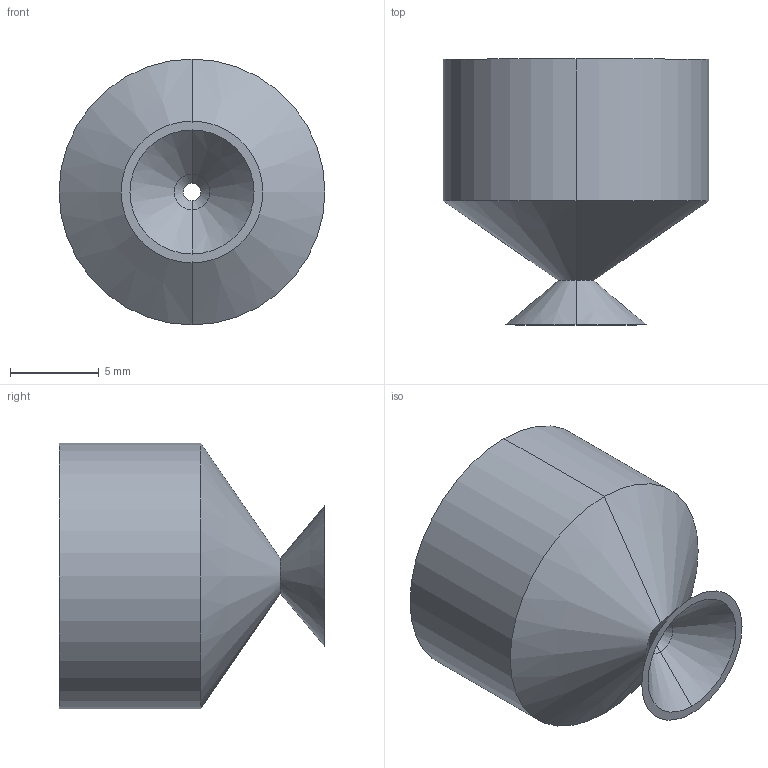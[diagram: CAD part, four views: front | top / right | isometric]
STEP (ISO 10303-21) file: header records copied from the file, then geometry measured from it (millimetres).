
FILE_DESCRIPTION (( 'STEP AP214' ), '1' );
FILE_NAME ('VSH-M8.STEP', '2019-11-30T09:00:59', ( '微软用户' ), ( '微软中国' ), 'SwSTEP 2.0', 'SolidWorks 2016', '' );
FILE_SCHEMA (( 'AUTOMOTIVE_DESIGN' ));
Length unit declared in the file: millimetre
Products named in the file (1): VSH-M8
Bounding box: 15 x 15 x 15 mm (x, y, z)
Volume: 1220.4 mm3; surface area: 1224.7 mm2
Topology: 1 solids, 1 shells, 18 faces, 36 edges, 22 vertices
Faces by surface type: cylinder 8, cone 6, plane 4
Entity records: 512 total; most frequent: DIRECTION 96, CARTESIAN_POINT 77, ORIENTED_EDGE 72, AXIS2_PLACEMENT_3D 41, EDGE_CURVE 36, CIRCLE 22, VERTEX_POINT 22, EDGE_LOOP 22
